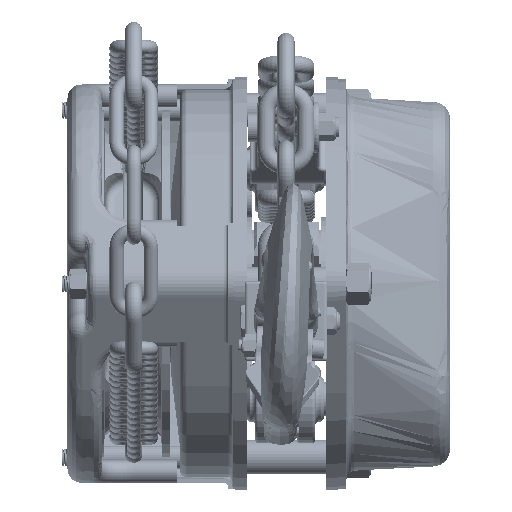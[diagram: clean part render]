
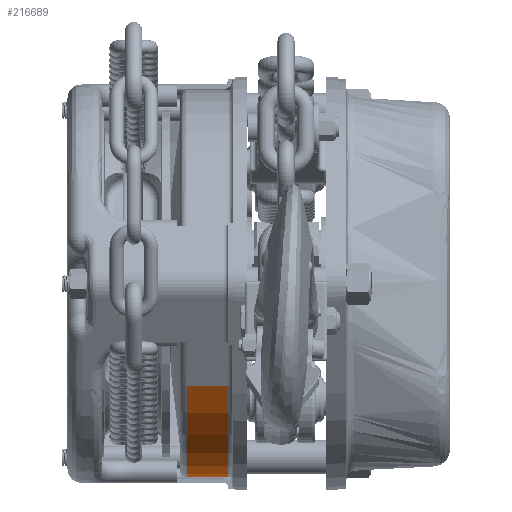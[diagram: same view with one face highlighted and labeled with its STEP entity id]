
A CAD part, front view. The second image highlights one B-rep face of the part: STEP entity #216689.
In plain terms, the highlighted cylindrical face has radius 68 mm (diameter 136 mm), a partial arc.
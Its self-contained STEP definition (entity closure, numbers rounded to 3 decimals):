
#169 = VERTEX_POINT ( 'NONE', #100919 ) ;
#7473 = ORIENTED_EDGE ( 'NONE', *, *, #196015, .F. ) ;
#8761 = AXIS2_PLACEMENT_3D ( 'NONE', #219512, #60681, #115588 ) ;
#12340 = CIRCLE ( 'NONE', #73230, 68. ) ;
#29001 = CARTESIAN_POINT ( 'NONE',  ( -68., 0., 2.5 ) ) ;
#29157 = VERTEX_POINT ( 'NONE', #224126 ) ;
#29842 = CARTESIAN_POINT ( 'NONE',  ( 0., 0., 2.5 ) ) ;
#48086 = CARTESIAN_POINT ( 'NONE',  ( -36.124, -57.611, 22.5 ) ) ;
#53991 = ORIENTED_EDGE ( 'NONE', *, *, #163414, .T. ) ;
#60681 = DIRECTION ( 'NONE',  ( 0., 0., -1. ) ) ;
#68352 = DIRECTION ( 'NONE',  ( 0., 0., -1. ) ) ;
#73230 = AXIS2_PLACEMENT_3D ( 'NONE', #29842, #170793, #225817 ) ;
#81172 = VERTEX_POINT ( 'NONE', #29001 ) ;
#88402 = VERTEX_POINT ( 'NONE', #139871 ) ;
#100558 = AXIS2_PLACEMENT_3D ( 'NONE', #198561, #197788, #177716 ) ;
#100919 = CARTESIAN_POINT ( 'NONE',  ( -36.124, -57.611, 2.5 ) ) ;
#115588 = DIRECTION ( 'NONE',  ( -1., 0., 0. ) ) ;
#120247 = CARTESIAN_POINT ( 'NONE',  ( -68., 0., 22.5 ) ) ;
#133276 = DIRECTION ( 'NONE',  ( 0., 0., -1. ) ) ;
#135465 = LINE ( 'NONE', #120247, #137906 ) ;
#137906 = VECTOR ( 'NONE', #68352, 1000. ) ;
#139871 = CARTESIAN_POINT ( 'NONE',  ( -68., 0., 17. ) ) ;
#143008 = FACE_OUTER_BOUND ( 'NONE', #168331, .T. ) ;
#151822 = CIRCLE ( 'NONE', #100558, 68. ) ;
#154767 = EDGE_CURVE ( 'NONE', #88402, #81172, #135465, .T. ) ;
#160449 = LINE ( 'NONE', #48086, #221473 ) ;
#163414 = EDGE_CURVE ( 'NONE', #29157, #88402, #151822, .T. ) ;
#168331 = EDGE_LOOP ( 'NONE', ( #7473, #53991, #194967, #220962 ) ) ;
#170793 = DIRECTION ( 'NONE',  ( 0., 0., 1. ) ) ;
#177716 = DIRECTION ( 'NONE',  ( -1., 0., 0. ) ) ;
#179093 = CYLINDRICAL_SURFACE ( 'NONE', #8761, 68. ) ;
#194967 = ORIENTED_EDGE ( 'NONE', *, *, #154767, .T. ) ;
#196015 = EDGE_CURVE ( 'NONE', #29157, #169, #160449, .T. ) ;
#197788 = DIRECTION ( 'NONE',  ( 0., 0., -1. ) ) ;
#198561 = CARTESIAN_POINT ( 'NONE',  ( 0., 0., 17. ) ) ;
#200849 = EDGE_CURVE ( 'NONE', #81172, #169, #12340, .T. ) ;
#216689 = ADVANCED_FACE ( 'NONE', ( #143008 ), #179093, .T. ) ;
#219512 = CARTESIAN_POINT ( 'NONE',  ( 0., 0., 22.5 ) ) ;
#220962 = ORIENTED_EDGE ( 'NONE', *, *, #200849, .T. ) ;
#221473 = VECTOR ( 'NONE', #133276, 1000. ) ;
#224126 = CARTESIAN_POINT ( 'NONE',  ( -36.124, -57.611, 17. ) ) ;
#225817 = DIRECTION ( 'NONE',  ( 1., 0., 0. ) ) ;
